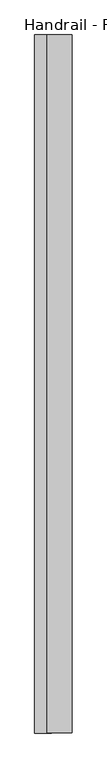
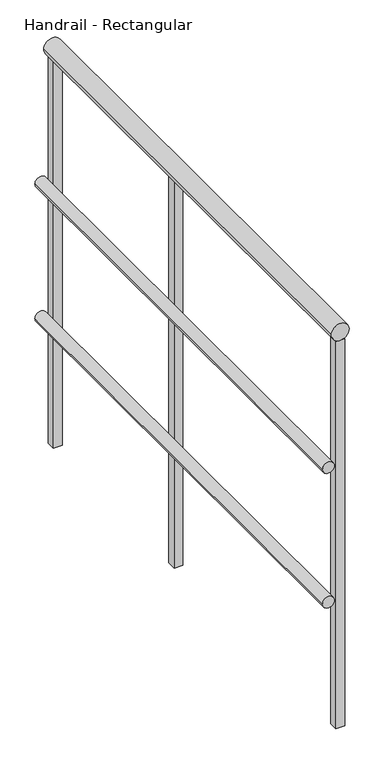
"""IFC4 building model written with IfcOpenShell, lengths in millimetres: railing geometry, Handrail - Rectangular."""

from ifc_helpers import new_model, si_unit, point, frame, frame_2d, origin, place, context, project, spatial, polyline, circle_curve, trimmed, segment, composite_curve, outline, extrude, source, transform, mapped, element, save


def handrail_rectangular_01a8bc3c(model_context):
    return source(origin(), model_context, "Body", "SweptSolid", [
        extrude(outline(composite_curve([segment(trimmed(circle_curve(frame_2d((9740.9, -32192.8839563)), 12.7), [point((9740.9, -32205.5839563))], [point((9740.9, -32180.1839563))], False, "CARTESIAN"), True, "CONTINUOUS"), segment(trimmed(circle_curve(frame_2d((9740.9, -32192.8839563)), 12.7), [point((9740.9, -32180.1839563))], [point((9740.9, -32205.5839563))], False, "CARTESIAN"), True, "CONTINUOUS")], self_intersect=False)), frame((0.0, -35349.9683133, 0.0), z_axis=(0.0, 1.0, 0.0), x_axis=(0.0, 0.0, 1.0)), (0.0, 0.0, 1.0), 1066.8),
        extrude(outline(composite_curve([segment(trimmed(circle_curve(frame_2d((9436.1, -32192.8839563)), 12.7), [point((9436.1, -32205.5839563))], [point((9436.1, -32180.1839563))], False, "CARTESIAN"), True, "CONTINUOUS"), segment(trimmed(circle_curve(frame_2d((9436.1, -32192.8839563)), 12.7), [point((9436.1, -32180.1839563))], [point((9436.1, -32205.5839563))], False, "CARTESIAN"), True, "CONTINUOUS")], self_intersect=False)), frame((0.0, -35349.9683133, 0.0), z_axis=(0.0, 1.0, 0.0), x_axis=(0.0, 0.0, 1.0)), (0.0, 0.0, 1.0), 1066.8),
        extrude(outline(composite_curve([segment(trimmed(circle_curve(frame_2d((10039.35, -32167.4839563)), 19.05), [point((10039.35, -32186.5339563))], [point((10039.35, -32148.4339563))], False, "CARTESIAN"), True, "CONTINUOUS"), segment(trimmed(circle_curve(frame_2d((10039.35, -32167.4839563)), 19.05), [point((10039.35, -32148.4339563))], [point((10039.35, -32186.5339563))], False, "CARTESIAN"), True, "CONTINUOUS")], self_intersect=False)), frame((0.0, -35349.9683133, 0.0), z_axis=(0.0, 1.0, 0.0), x_axis=(0.0, 0.0, 1.0)), (0.0, 0.0, 1.0), 1066.8),
        extrude(outline(polyline([(-32157.9589563, -34749.8933133), (-32177.0089563, -34749.8933133), (-32177.0089563, -34730.8433133), (-32157.9589563, -34730.8433133), (-32157.9589563, -34749.8933133)])), frame((0.0, 0.0, 9144.0), z_axis=(0.0, 0.0, 1.0), x_axis=(1.0, 0.0, 0.0)), (0.0, 0.0, 1.0), 876.3),
        extrude(outline(polyline([(-32157.9589563, -34302.2183133), (-32177.0089563, -34302.2183133), (-32177.0089563, -34283.1683133), (-32157.9589563, -34283.1683133), (-32157.9589563, -34302.2183133)])), frame((0.0, 0.0, 9144.0), z_axis=(0.0, 0.0, 1.0), x_axis=(1.0, 0.0, 0.0)), (0.0, 0.0, 1.0), 876.3),
        extrude(outline(polyline([(-32157.9589563, -35349.9683133), (-32177.0089563, -35349.9683133), (-32177.0089563, -35330.9183133), (-32157.9589563, -35330.9183133), (-32157.9589563, -35349.9683133)])), frame((0.0, 0.0, 9144.0), z_axis=(0.0, 0.0, 1.0), x_axis=(1.0, 0.0, 0.0)), (0.0, 0.0, 1.0), 876.3),
    ])


if __name__ == "__main__":
    model = new_model("IFC4")
    model_context = context("Model", 3, world=origin())
    ifc_project = project(units=[si_unit("LENGTHUNIT", "METRE", prefix="MILLI")], contexts=[model_context])
    site = spatial("IfcSite", under=ifc_project)
    building = spatial("IfcBuilding", under=site)
    placement = place(None, origin())
    handrail_rectangular_shape = handrail_rectangular_01a8bc3c(model_context)
    element("IfcRailing", 1, ObjectType="Handrail - Rectangular", at=placement, inside=building, context=model_context, shape_type="MappedRepresentation", body=[
        mapped(handrail_rectangular_shape, transform((0.0, 0.0, 0.0), x_axis=(1.0, 0.0, 0.0), y_axis=(0.0, 1.0, 0.0), z_axis=(0.0, 0.0, 1.0))),
    ])
    save(model, "model.ifc")
